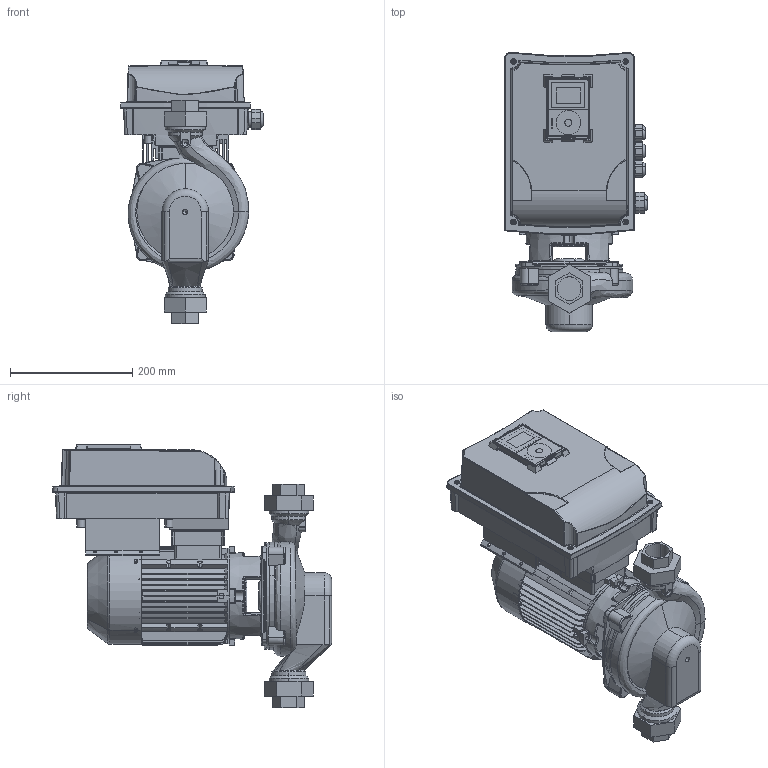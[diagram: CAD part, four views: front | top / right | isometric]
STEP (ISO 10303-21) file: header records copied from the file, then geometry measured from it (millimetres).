
FILE_DESCRIPTION(('STEP AP214'),'1');
FILE_NAME('export.stp','2018-06-01T09:51:34',(' '),(' '),'Spatial InterOp 3D',' ',' ');
FILE_SCHEMA(('AUTOMOTIVE_DESIGN { 1 0 10303 214 1 1 1 1 }'));
Length unit declared in the file: millimetre
Products named in the file (23): W_AE332110KPVS; V_TLAEAP3233L40A; V_PPAE33; 160029; 160001; V_MKP80-1-N13_VS; 480032; 480031___; 160133; Vacon_MS2; G43699; Vacon20CP_MS2; MS2_bottom_final; P101407; MS2_cover_final; Vacon_Display; CAD-3D-VACON-M100-Display.sldasm; Vacon_display_pla; Vacon_display_scr; DIN_966-M5x10; M20_tiivisteholkk; M25_tiivisteholkk; SOVITUSPALA
Assembly tree (27 placements, depth 6):
  W_AE332110KPVS
    V_TLAEAP3233L40A
    V_PPAE33
    V_MKP80-1-N13_VS
      160029
        160001
      480032
        480031___
      160133
      Vacon_MS2
        G43699
        Vacon20CP_MS2
          MS2_bottom_final
          P101407
          MS2_cover_final
          Vacon_Display
            CAD-3D-VACON-M100-Display.sldasm
            Vacon_display_pla
            Vacon_display_scr
          DIN_966-M5x10  x4
          M20_tiivisteholkk  x3
          M25_tiivisteholkk
      SOVITUSPALA
Bounding box: 233.73 x 457.3 x 431.31 mm (x, y, z)
Volume: 4429105.4 mm3; surface area: 1506677 mm2
Topology: 20 solids, 1493 shells, 4521 faces, 15887 edges, 12844 vertices
Faces by surface type: bspline 1713, plane 1229, cylinder 877, torus 391, cone 260, sphere 51
Entity records: 216555 total; most frequent: CARTESIAN_POINT 90001, ORIENTED_EDGE 22870, EDGE_CURVE 15257, DIRECTION 14546, VERTEX_POINT 12526, B_SPLINE_CURVE_WITH_KNOTS 7655, AXIS2_PLACEMENT_3D 5545, EDGE_LOOP 4733
